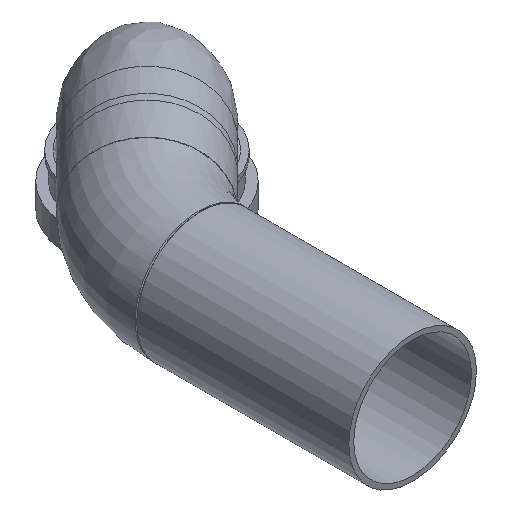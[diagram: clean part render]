
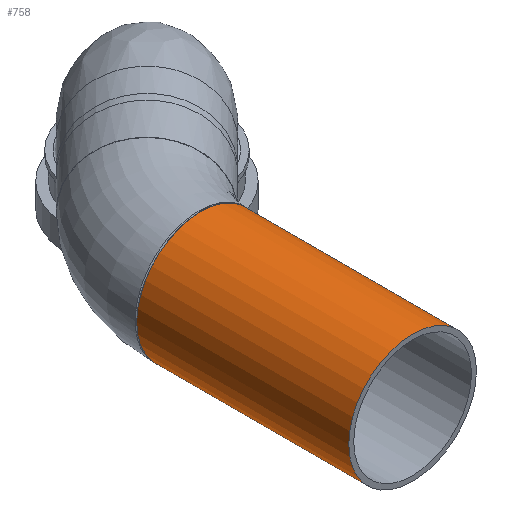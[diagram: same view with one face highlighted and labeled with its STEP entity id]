
A CAD part, isometric view. The second image highlights one B-rep face of the part: STEP entity #758.
In plain terms, the highlighted cylindrical face has radius 45 mm (diameter 90 mm), a full revolution.
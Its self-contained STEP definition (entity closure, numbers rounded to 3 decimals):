
#82=FACE_BOUND($,#174,.T.);
#121=FACE_OUTER_BOUND($,#173,.T.);
#173=EDGE_LOOP($,(#503));
#174=EDGE_LOOP($,(#504));
#248=CIRCLE($,#820,45.);
#253=CIRCLE($,#829,45.);
#331=VERTEX_POINT($,#1121);
#336=VERTEX_POINT($,#1135);
#400=EDGE_CURVE($,#331,#331,#248,.T.);
#405=EDGE_CURVE($,#336,#336,#253,.T.);
#503=ORIENTED_EDGE($,*,*,#400,.T.);
#504=ORIENTED_EDGE($,*,*,#405,.F.);
#681=CYLINDRICAL_SURFACE($,#828,45.);
#758=ADVANCED_FACE($,(#121,#82),#681,.T.);
#820=AXIS2_PLACEMENT_3D($,#1122,#911,#912);
#828=AXIS2_PLACEMENT_3D($,#1134,#927,#928);
#829=AXIS2_PLACEMENT_3D($,#1136,#929,#930);
#911=DIRECTION('center_axis',(0.,-1.,0.));
#912=DIRECTION('ref_axis',(1.,0.,0.));
#927=DIRECTION('center_axis',(0.,1.,0.));
#928=DIRECTION('ref_axis',(1.,0.,0.));
#929=DIRECTION('center_axis',(0.,-1.,0.));
#930=DIRECTION('ref_axis',(1.,0.,0.));
#1121=CARTESIAN_POINT('',(-45.,149.48,0.));
#1122=CARTESIAN_POINT('Origin',(0.,149.48,0.));
#1134=CARTESIAN_POINT('Origin',(0.,0.,0.));
#1135=CARTESIAN_POINT('',(-45.,0.,0.));
#1136=CARTESIAN_POINT('Origin',(0.,0.,0.));
